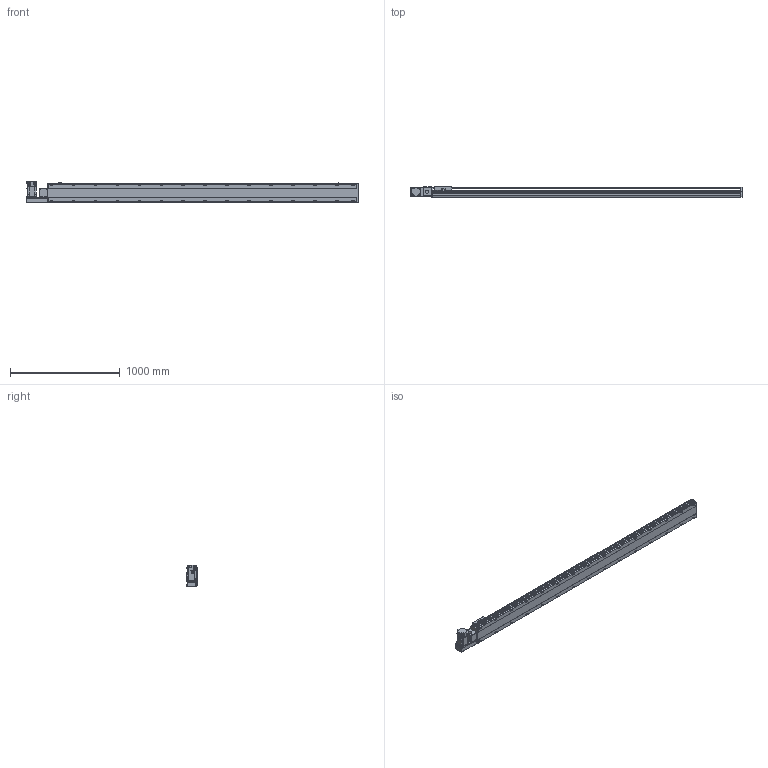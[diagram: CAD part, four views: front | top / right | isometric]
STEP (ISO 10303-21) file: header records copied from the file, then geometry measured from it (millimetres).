
FILE_DESCRIPTION( ( 'STEP AP214' ), '1' );
FILE_NAME( 'x:/temp/worker_3/temp/exporttempdir_5796_125_xWyv7/format_0/PBS170-P40-S2550-L-T75-C1-N(0).stp', '2022-06-07T06:58:52', ( 'License CC BY-ND 4.0' ), ( 'CADENAS' ), ' ', 'PARTsolutions', ' ' );
FILE_SCHEMA( ( 'AUTOMOTIVE_DESIGN { 1 0 10303 214 1 1 1 1 }' ) );
Length unit declared in the file: millimetre
Products named in the file (7): PBS170-P40-S2550-L-T75-C1-N(0); _PBS170-S2550()_body; _PBS170T-L_motors; _T75-p1; _PBS170_sliser; _PBS170_plant; _PBS170_sensor
Assembly tree (8 placements, depth 2):
  PBS170-P40-S2550-L-T75-C1-N(0)
    _PBS170-S2550()_body
    _PBS170T-L_motors
    _T75-p1
    _PBS170_sliser
    _PBS170_plant
    _PBS170_sensor  x3
Bounding box: 3028 x 97 x 197.3 mm (x, y, z)
Volume: 22035219.2 mm3; surface area: 2772426.8 mm2
Topology: 8 solids, 8 shells, 1194 faces, 3155 edges, 2056 vertices
Faces by surface type: plane 729, cylinder 395, cone 60, sphere 8, torus 2
Full cylindrical faces by diameter (mm): 3.242 x4, 4 x2, 4.4 x4, 4.5 x6, 4.917 x4, 6 x9, 6.647 x38, 7 x2, 7.5 x4, 8 x8, 8.5 x30, 10 x4, 10.5 x30, 11 x2, 30 x2, 40 x1, 70 x1
Entity records: 44234 total; most frequent: CARTESIAN_POINT 7397, DIRECTION 5790, ORIENTED_EDGE 5448, EDGE_CURVE 2724, AXIS2_PLACEMENT_3D 2047, VERTEX_POINT 1898, LINE 1696, VECTOR 1696
